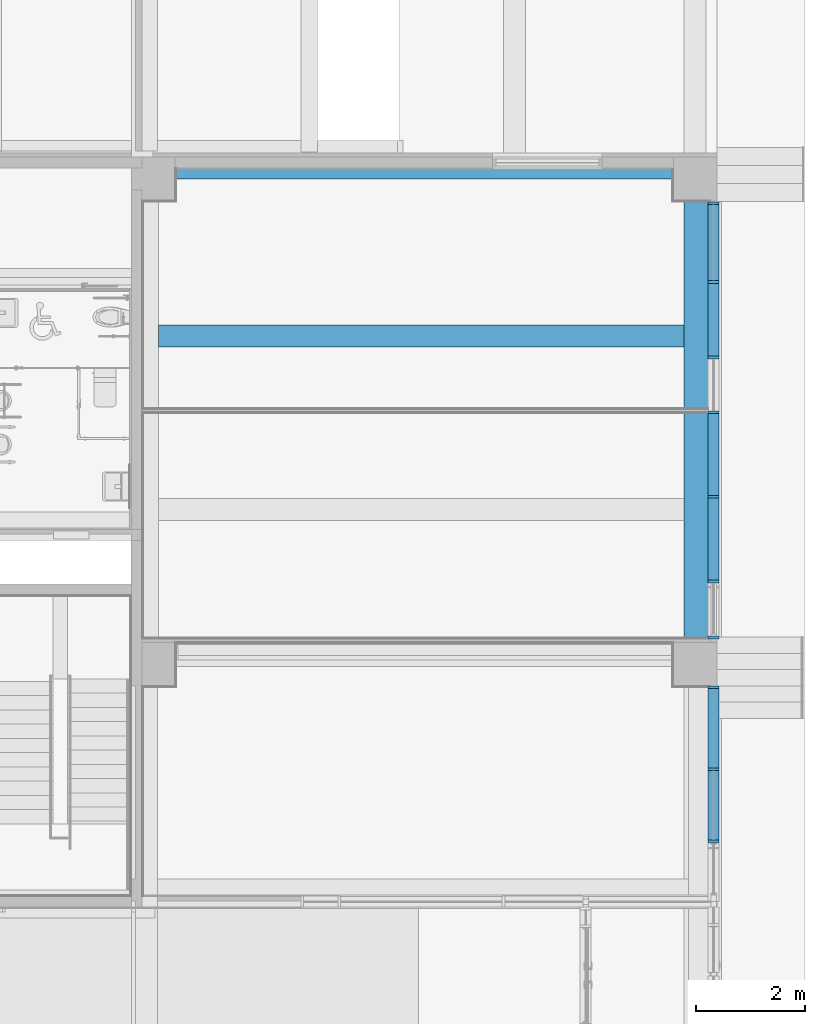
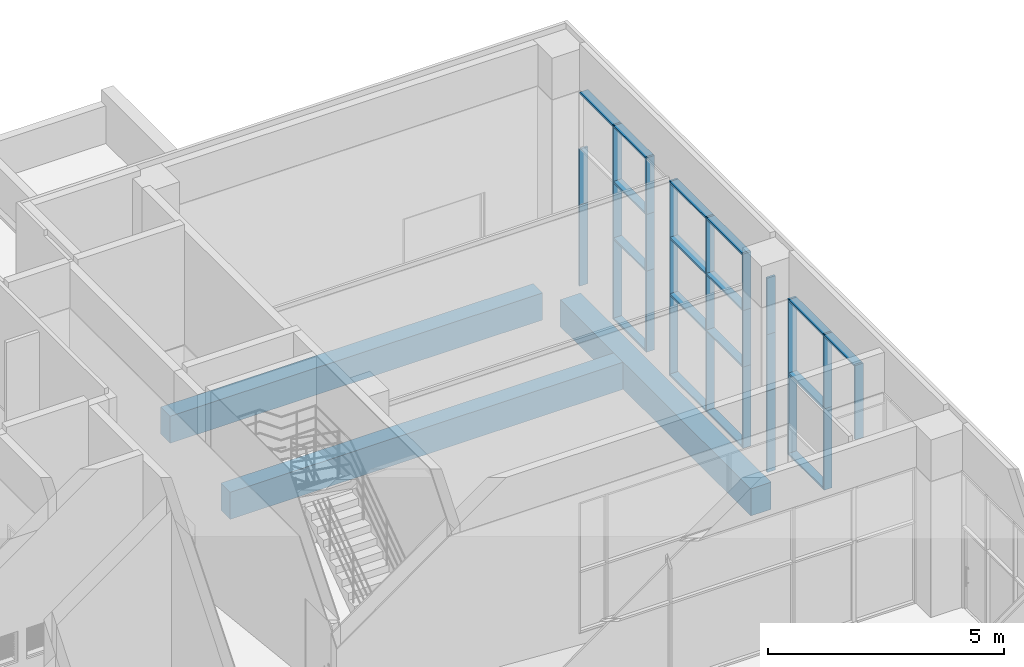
# One storey, part 14 of 100: 42 members, 3 beams, 2 elements without a shape of their own.
"""IFC2X3 building model written with IfcOpenShell, lengths in millimetres."""

from ifc_helpers import new_model, entity, si_unit, converted_unit, derived_unit, direction, frame, frame_2d, origin, origin_2d_with_axis, place, context, subcontext, project, spatial, rectangle, extrude, source, transform, mapped, material, type_object, type_shapes, element, aggregate, save


model = new_model("IFC2X3")

# Units and contexts
model_context = context("Model", 3, precision=0.01, world=origin(), true_north=direction((6.123031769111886e-17, 1.0)))
body_context = subcontext(model_context, "Body", "Model", "MODEL_VIEW")
ifc_project = project(units=[si_unit("LENGTHUNIT", "METRE", prefix="MILLI"), si_unit("AREAUNIT", "SQUARE_METRE"), si_unit("VOLUMEUNIT", "CUBIC_METRE"), converted_unit("PLANEANGLEUNIT", "DEGREE", entity("IfcRatioMeasure", 0.017453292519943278), si_unit("PLANEANGLEUNIT", "RADIAN"), dimensions=[0, 0, 0, 0, 0, 0, 0]), si_unit("MASSUNIT", "GRAM", prefix="KILO"), derived_unit("MASSDENSITYUNIT", [(si_unit("MASSUNIT", "GRAM", prefix="KILO"), 1), (si_unit("LENGTHUNIT", "METRE"), -3)]), derived_unit("MOMENTOFINERTIAUNIT", [(si_unit("LENGTHUNIT", "METRE"), 4)]), si_unit("TIMEUNIT", "SECOND"), si_unit("FREQUENCYUNIT", "HERTZ"), si_unit("THERMODYNAMICTEMPERATUREUNIT", "DEGREE_CELSIUS"), derived_unit("THERMALTRANSMITTANCEUNIT", [(si_unit("MASSUNIT", "GRAM", prefix="KILO"), 1), (si_unit("THERMODYNAMICTEMPERATUREUNIT", "KELVIN"), -1), (si_unit("TIMEUNIT", "SECOND"), -3)]), derived_unit("VOLUMETRICFLOWRATEUNIT", [(si_unit("LENGTHUNIT", "METRE"), 3), (si_unit("TIMEUNIT", "SECOND"), -1)]), derived_unit("MASSFLOWRATEUNIT", [(si_unit("MASSUNIT", "GRAM", prefix="KILO"), 1), (si_unit("TIMEUNIT", "SECOND"), -1)]), derived_unit("ROTATIONALFREQUENCYUNIT", [(si_unit("TIMEUNIT", "SECOND"), -1)]), si_unit("ELECTRICCURRENTUNIT", "AMPERE"), si_unit("ELECTRICVOLTAGEUNIT", "VOLT"), si_unit("POWERUNIT", "WATT"), si_unit("FORCEUNIT", "NEWTON", prefix="KILO"), si_unit("ILLUMINANCEUNIT", "LUX"), si_unit("LUMINOUSFLUXUNIT", "LUMEN"), si_unit("LUMINOUSINTENSITYUNIT", "CANDELA"), derived_unit("USERDEFINED", [(si_unit("MASSUNIT", "GRAM", prefix="KILO"), -1), (si_unit("LENGTHUNIT", "METRE"), -2), (si_unit("TIMEUNIT", "SECOND"), 3), (si_unit("LUMINOUSFLUXUNIT", "LUMEN"), 1)]), derived_unit("SOUNDPOWERUNIT", [(si_unit("MASSUNIT", "GRAM", prefix="KILO"), 1), (si_unit("LENGTHUNIT", "METRE"), 2), (si_unit("TIMEUNIT", "SECOND"), -3)]), derived_unit("SOUNDPRESSUREUNIT", [(si_unit("MASSUNIT", "GRAM", prefix="KILO"), 1), (si_unit("LENGTHUNIT", "METRE"), -1), (si_unit("TIMEUNIT", "SECOND"), -2)]), derived_unit("LINEARVELOCITYUNIT", [(si_unit("LENGTHUNIT", "METRE"), 1), (si_unit("TIMEUNIT", "SECOND"), -1)]), si_unit("PRESSUREUNIT", "PASCAL"), derived_unit("USERDEFINED", [(si_unit("LENGTHUNIT", "METRE"), -2), (si_unit("MASSUNIT", "GRAM", prefix="KILO"), 1), (si_unit("TIMEUNIT", "SECOND"), -2)]), derived_unit("LINEARFORCEUNIT", [(si_unit("MASSUNIT", "GRAM", prefix="KILO"), 1), (si_unit("LENGTHUNIT", "METRE"), 1), (si_unit("TIMEUNIT", "SECOND"), -2), (si_unit("LENGTHUNIT", "METRE"), -1)]), derived_unit("PLANARFORCEUNIT", [(si_unit("MASSUNIT", "GRAM", prefix="KILO"), 1), (si_unit("LENGTHUNIT", "METRE"), 1), (si_unit("TIMEUNIT", "SECOND"), -2), (si_unit("LENGTHUNIT", "METRE"), -2)])], contexts=[model_context])

# Site, building, storey
site_placement = place(None, frame((-14167.972527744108, -657.2125860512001, 0.0)))
site = spatial("IfcSite", under=ifc_project, at=site_placement, Name="Default", CompositionType="ELEMENT")
building_placement = place(site_placement, origin())
building = spatial("IfcBuilding", under=site, at=building_placement, Name="Sample Building", CompositionType="ELEMENT")
storey_placement = place(building_placement, origin())
storey = spatial("IfcBuildingStorey", under=building, at=storey_placement, Name="지상 1층", CompositionType="ELEMENT", Elevation=0.0)

# Curtain wall, member
curtain_wall_type = type_object("IfcCurtainWallType", Name="커튼월:CW112-스테인리스 스틸 커튼월", PredefinedType="NOTDEFINED")
curtain_wall_1_placement = place(storey_placement, origin())
curtain_wall_1 = element("IfcCurtainWall", 1, at=curtain_wall_1_placement, inside=storey, type_object=curtain_wall_type, Name="커튼월:CW112-스테인리스 스틸 커튼월", ObjectType="커튼월:CW112-스테인리스 스틸 커튼월")
ifc_material_1 = material(Name="<Unnamed>")
member_type_1 = type_object("IfcMemberType", Name="직사각형 멀리언:CW200-직사각형 멀리언 50x200mm", PredefinedType="MULLION", material=ifc_material_1)
shared_shape_1 = source(origin(), body_context, "Body", "SweptSolid", [
    extrude(rectangle(XDim=200.0, YDim=50.0, at=origin_2d_with_axis()), frame((0.0, 0.0, -2100.0), z_axis=(0.0, 0.0, 1.0), x_axis=(0.0, -1.0, 0.0)), (0.0, 0.0, 1.0), 2100.0),
])
type_shapes(member_type_1, [shared_shape_1])
member_1_placement = place(curtain_wall_1_placement, frame((51405.46382893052, 18077.17771234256, -420.0), z_axis=(0.0, 0.0, -1.0), x_axis=(0.0, 1.0, 0.0)))
member_1 = element("IfcMember", 2, at=member_1_placement, type_object=member_type_1, material=ifc_material_1, Name="직사각형 멀리언:CW200-직사각형 멀리언 50x200mm", ObjectType="직사각형 멀리언:CW200-직사각형 멀리언 50x200mm", context=body_context, shape_type="MappedRepresentation", body=[
    mapped(shared_shape_1, transform((0.0, 0.0, 0.0), scale=1.0)),
])

# Curtain wall, members
curtain_wall_2_placement = place(storey_placement, origin())
curtain_wall_2 = element("IfcCurtainWall", 3, at=curtain_wall_2_placement, inside=storey, type_object=curtain_wall_type, Name="커튼월:CW112-스테인리스 스틸 커튼월", ObjectType="커튼월:CW112-스테인리스 스틸 커튼월")
member_2_placement = place(curtain_wall_2_placement, frame((51405.481214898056, 21507.177712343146, -1420.0), z_axis=(0.0, 0.0, -1.0), x_axis=(0.0, 1.0, 0.0)))
member_2 = element("IfcMember", 4, at=member_2_placement, type_object=member_type_1, material=ifc_material_1, Name="직사각형 멀리언:CW200-직사각형 멀리언 50x200mm", ObjectType="직사각형 멀리언:CW200-직사각형 멀리언 50x200mm", context=body_context, shape_type="MappedRepresentation", body=[
    mapped(shared_shape_1, transform((0.0, 0.0, 0.0), scale=1.0)),
])
member_3_placement = place(curtain_wall_2_placement, frame((51405.481214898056, 23052.177712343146, -1420.0), z_axis=(0.0, 0.0, -1.0), x_axis=(0.0, 1.0, 0.0)))
member_3 = element("IfcMember", 5, at=member_3_placement, type_object=member_type_1, material=ifc_material_1, Name="직사각형 멀리언:CW200-직사각형 멀리언 50x200mm", ObjectType="직사각형 멀리언:CW200-직사각형 멀리언 50x200mm", context=body_context, shape_type="MappedRepresentation", body=[
    mapped(shared_shape_1, transform((0.0, 0.0, 0.0), scale=1.0)),
])
member_4_placement = place(curtain_wall_2_placement, frame((51405.48121489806, 24597.177712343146, -1420.0), z_axis=(0.0, 0.0, -1.0), x_axis=(0.0, 1.0, 0.0)))
member_4 = element("IfcMember", 6, at=member_4_placement, type_object=member_type_1, material=ifc_material_1, Name="직사각형 멀리언:CW200-직사각형 멀리언 50x200mm", ObjectType="직사각형 멀리언:CW200-직사각형 멀리언 50x200mm", context=body_context, shape_type="MappedRepresentation", body=[
    mapped(shared_shape_1, transform((0.0, 0.0, 0.0), scale=1.0)),
])
member_5_placement = place(curtain_wall_2_placement, frame((51405.48121489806, 25597.177712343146, -1420.0), z_axis=(0.0, 0.0, -1.0), x_axis=(0.0, 1.0, 0.0)))
member_5 = element("IfcMember", 7, at=member_5_placement, type_object=member_type_1, material=ifc_material_1, Name="직사각형 멀리언:CW200-직사각형 멀리언 50x200mm", ObjectType="직사각형 멀리언:CW200-직사각형 멀리언 50x200mm", context=body_context, shape_type="MappedRepresentation", body=[
    mapped(shared_shape_1, transform((0.0, 0.0, 0.0), scale=1.0)),
])
member_6_placement = place(curtain_wall_2_placement, frame((51405.48121489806, 26977.177712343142, -1420.0), z_axis=(0.0, 0.0, -1.0), x_axis=(0.0, 1.0, 0.0)))
member_6 = element("IfcMember", 8, at=member_6_placement, type_object=member_type_1, material=ifc_material_1, Name="직사각형 멀리언:CW200-직사각형 멀리언 50x200mm", ObjectType="직사각형 멀리언:CW200-직사각형 멀리언 50x200mm", context=body_context, shape_type="MappedRepresentation", body=[
    mapped(shared_shape_1, transform((0.0, 0.0, 0.0), scale=1.0)),
])

# Member
member_type_2 = type_object("IfcMemberType", Name="직사각형 멀리언:CW200-직사각형 멀리언 50x200mm", PredefinedType="MULLION", material=ifc_material_1)
shared_shape_2 = source(origin(), body_context, "Body", "SweptSolid", [
    extrude(rectangle(XDim=200.0, YDim=50.0, at=origin_2d_with_axis()), frame((-25.0, 0.0, -2100.0), z_axis=(0.0, 0.0, 1.0), x_axis=(0.0, -1.0, 0.0)), (0.0, 0.0, 1.0), 2100.0),
])
type_shapes(member_type_2, [shared_shape_2])
member_7_placement = place(curtain_wall_1_placement, frame((51405.46382893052, 19597.21238308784, -420.0), z_axis=(0.0, 0.0, -1.0), x_axis=(0.0, 1.0, 0.0)))
member_7 = element("IfcMember", 9, at=member_7_placement, type_object=member_type_2, material=ifc_material_1, Name="직사각형 멀리언:CW200-직사각형 멀리언 50x200mm", ObjectType="직사각형 멀리언:CW200-직사각형 멀리언 50x200mm", context=body_context, shape_type="MappedRepresentation", body=[
    mapped(shared_shape_2, transform((0.0, 0.0, 0.0), scale=1.0)),
])

member_8_placement = place(curtain_wall_2_placement, frame((51405.48121489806, 28439.212704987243, -1420.0), z_axis=(0.0, 0.0, -1.0), x_axis=(0.0, 1.0, 0.0)))
member_8 = element("IfcMember", 10, at=member_8_placement, type_object=member_type_2, material=ifc_material_1, Name="직사각형 멀리언:CW200-직사각형 멀리언 50x200mm", ObjectType="직사각형 멀리언:CW200-직사각형 멀리언 50x200mm", context=body_context, shape_type="MappedRepresentation", body=[
    mapped(shared_shape_2, transform((0.0, 0.0, 0.0), scale=1.0)),
])

member_type_3 = type_object("IfcMemberType", Name="직사각형 멀리언:CW200-직사각형 멀리언 50x200mm", PredefinedType="MULLION", material=ifc_material_1)
shared_shape_3 = source(origin(), body_context, "Body", "SweptSolid", [
    extrude(rectangle(XDim=200.0, YDim=50.0, at=origin_2d_with_axis()), frame((-25.0, 0.0, -2100.0), z_axis=(0.0, 0.0, 1.0), x_axis=(0.0, -1.0, 0.0)), (0.0, 0.0, 1.0), 2099.9999999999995),
])
type_shapes(member_type_3, [shared_shape_3])
member_9_placement = place(curtain_wall_2_placement, frame((51405.481214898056, 20457.212307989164, 680.0), z_axis=(0.0, 0.0, 1.0), x_axis=(0.0, -1.0, 0.0)))
member_9 = element("IfcMember", 11, at=member_9_placement, type_object=member_type_3, material=ifc_material_1, Name="직사각형 멀리언:CW200-직사각형 멀리언 50x200mm", ObjectType="직사각형 멀리언:CW200-직사각형 멀리언 50x200mm", context=body_context, shape_type="MappedRepresentation", body=[
    mapped(shared_shape_3, transform((0.0, 0.0, 0.0), scale=1.0)),
])

member_type_4 = type_object("IfcMemberType", Name="직사각형 멀리언:CW200-직사각형 멀리언 50x200mm", PredefinedType="MULLION", material=ifc_material_1)
shared_shape_4 = source(origin(), body_context, "Body", "SweptSolid", [
    extrude(rectangle(XDim=200.0, YDim=50.0, at=origin_2d_with_axis()), frame((-25.0, 0.0, -1445.0346707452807), z_axis=(0.0, 0.0, 1.0), x_axis=(0.0, -1.0, 0.0)), (0.0, 0.0, 1.0), 1445.0346707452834),
])
type_shapes(member_type_4, [shared_shape_4])
member_10_placement = place(curtain_wall_1_placement, frame((51405.46382893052, 19547.21238308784, 3600.0), z_axis=(0.0, 1.0, 0.0), x_axis=(0.0, 0.0, 1.0)))
member_10 = element("IfcMember", 12, at=member_10_placement, type_object=member_type_4, material=ifc_material_1, Name="직사각형 멀리언:CW200-직사각형 멀리언 50x200mm", ObjectType="직사각형 멀리언:CW200-직사각형 멀리언 50x200mm", context=body_context, shape_type="MappedRepresentation", body=[
    mapped(shared_shape_4, transform((0.0, 0.0, 0.0), scale=1.0)),
])

member_type_5 = type_object("IfcMemberType", Name="직사각형 멀리언:CW200-직사각형 멀리언 50x200mm", PredefinedType="MULLION", material=ifc_material_1)
shared_shape_5 = source(origin(), body_context, "Body", "SweptSolid", [
    extrude(rectangle(XDim=200.0, YDim=50.0, at=origin_2d_with_axis()), frame((-25.0, 0.0, -1920.0), z_axis=(0.0, 0.0, 1.0), x_axis=(0.0, -1.0, 0.0)), (0.0, 0.0, 1.0), 1920.000000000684),
])
type_shapes(member_type_5, [shared_shape_5])
member_11_placement = place(curtain_wall_1_placement, frame((51405.46382893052, 19597.21238308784, 1680.0), z_axis=(0.0, 0.0, -1.0), x_axis=(0.0, 1.0, 0.0)))
member_11 = element("IfcMember", 13, at=member_11_placement, type_object=member_type_5, material=ifc_material_1, Name="직사각형 멀리언:CW200-직사각형 멀리언 50x200mm", ObjectType="직사각형 멀리언:CW200-직사각형 멀리언 50x200mm", context=body_context, shape_type="MappedRepresentation", body=[
    mapped(shared_shape_5, transform((0.0, 0.0, 0.0), scale=1.0)),
])

member_type_6 = type_object("IfcMemberType", Name="직사각형 멀리언:CW200-직사각형 멀리언 50x200mm", PredefinedType="MULLION", material=ifc_material_1)
shared_shape_6 = source(origin(), body_context, "Body", "SweptSolid", [
    extrude(rectangle(XDim=200.0, YDim=50.0, at=origin_2d_with_axis()), frame((0.0, 0.0, -1920.0), z_axis=(0.0, 0.0, 1.0), x_axis=(0.0, -1.0, 0.0)), (0.0, 0.0, 1.0), 1920.0000000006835),
])
type_shapes(member_type_6, [shared_shape_6])
member_12_placement = place(curtain_wall_1_placement, frame((51405.46382893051, 16757.17771234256, 1680.0), z_axis=(0.0, 0.0, -1.0), x_axis=(0.0, 1.0, 0.0)))
member_12 = element("IfcMember", 14, at=member_12_placement, type_object=member_type_6, material=ifc_material_1, Name="직사각형 멀리언:CW200-직사각형 멀리언 50x200mm", ObjectType="직사각형 멀리언:CW200-직사각형 멀리언 50x200mm", context=body_context, shape_type="MappedRepresentation", body=[
    mapped(shared_shape_6, transform((0.0, 0.0, 0.0), scale=1.0)),
])

member_13_placement = place(curtain_wall_1_placement, frame((51405.46382893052, 18077.17771234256, 1680.0), z_axis=(0.0, 0.0, -1.0), x_axis=(0.0, 1.0, 0.0)))
member_13 = element("IfcMember", 15, at=member_13_placement, type_object=member_type_6, material=ifc_material_1, Name="직사각형 멀리언:CW200-직사각형 멀리언 50x200mm", ObjectType="직사각형 멀리언:CW200-직사각형 멀리언 50x200mm", context=body_context, shape_type="MappedRepresentation", body=[
    mapped(shared_shape_6, transform((0.0, 0.0, 0.0), scale=1.0)),
])

member_type_7 = type_object("IfcMemberType", Name="직사각형 멀리언:CW200-직사각형 멀리언 50x200mm", PredefinedType="MULLION", material=ifc_material_1)
shared_shape_7 = source(origin(), body_context, "Body", "SweptSolid", [
    extrude(rectangle(XDim=200.0, YDim=50.0, at=origin_2d_with_axis()), frame((-25.0, 0.0, -1270.0), z_axis=(0.0, 0.0, 1.0), x_axis=(0.0, -1.0, 0.0)), (0.0, 0.0, 1.0), 1269.9999999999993),
])
type_shapes(member_type_7, [shared_shape_7])
member_14_placement = place(curtain_wall_1_placement, frame((51405.46382893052, 18052.177712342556, 3600.0), z_axis=(0.0, 1.0, 0.0), x_axis=(0.0, 0.0, 1.0)))
member_14 = element("IfcMember", 16, at=member_14_placement, type_object=member_type_7, material=ifc_material_1, Name="직사각형 멀리언:CW200-직사각형 멀리언 50x200mm", ObjectType="직사각형 멀리언:CW200-직사각형 멀리언 50x200mm", context=body_context, shape_type="MappedRepresentation", body=[
    mapped(shared_shape_7, transform((0.0, 0.0, 0.0), scale=1.0)),
])

member_type_8 = type_object("IfcMemberType", Name="직사각형 멀리언:CW200-직사각형 멀리언 50x200mm", PredefinedType="MULLION", material=ifc_material_1)
shared_shape_8 = source(origin(), body_context, "Body", "SweptSolid", [
    extrude(rectangle(XDim=200.0, YDim=50.0, at=origin_2d_with_axis()), frame((-25.0, 0.0, -1445.034670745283), z_axis=(0.0, 0.0, 1.0), x_axis=(0.0, -1.0, 0.0)), (0.0, 0.0, 1.0), 1445.0346707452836),
])
type_shapes(member_type_8, [shared_shape_8])
member_15_placement = place(curtain_wall_1_placement, frame((51405.46382893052, 18102.17771234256, -420.0), z_axis=(0.0, -1.0, 0.0), x_axis=(0.0, 0.0, -1.0)))
member_15 = element("IfcMember", 17, at=member_15_placement, type_object=member_type_8, material=ifc_material_1, Name="직사각형 멀리언:CW200-직사각형 멀리언 50x200mm", ObjectType="직사각형 멀리언:CW200-직사각형 멀리언 50x200mm", context=body_context, shape_type="MappedRepresentation", body=[
    mapped(shared_shape_8, transform((0.0, 0.0, 0.0), scale=1.0)),
])

member_type_9 = type_object("IfcMemberType", Name="직사각형 멀리언:CW200-직사각형 멀리언 50x200mm", PredefinedType="MULLION", material=ifc_material_1)
shared_shape_9 = source(origin(), body_context, "Body", "SweptSolid", [
    extrude(rectangle(XDim=200.0, YDim=50.0, at=origin_2d_with_axis()), frame((0.0, 0.0, -1445.034670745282), z_axis=(0.0, 0.0, 1.0), x_axis=(0.0, -1.0, 0.0)), (0.0, 0.0, 1.0), 1445.0346707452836),
])
type_shapes(member_type_9, [shared_shape_9])
member_16_placement = place(curtain_wall_1_placement, frame((51405.46382893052, 19547.21238308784, 1680.0), z_axis=(0.0, 1.0, 0.0), x_axis=(0.0, 0.0, 1.0)))
member_16 = element("IfcMember", 18, at=member_16_placement, type_object=member_type_9, material=ifc_material_1, Name="직사각형 멀리언:CW200-직사각형 멀리언 50x200mm", ObjectType="직사각형 멀리언:CW200-직사각형 멀리언 50x200mm", context=body_context, shape_type="MappedRepresentation", body=[
    mapped(shared_shape_9, transform((0.0, 0.0, 0.0), scale=1.0)),
])

aggregate(curtain_wall_1, [member_10, member_7, member_11, member_12, member_14, member_15, member_16, member_1, member_13])

member_type_10 = type_object("IfcMemberType", Name="직사각형 멀리언:CW200-직사각형 멀리언 50x200mm", PredefinedType="MULLION", material=ifc_material_1)
shared_shape_10 = source(origin(), body_context, "Body", "SweptSolid", [
    extrude(rectangle(XDim=200.0, YDim=50.0, at=origin_2d_with_axis()), frame((-25.0, 0.0, -1387.0349926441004), z_axis=(0.0, 0.0, 1.0), x_axis=(0.0, -1.0, 0.0)), (0.0, 0.0, 1.0), 1387.034992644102),
])
type_shapes(member_type_10, [shared_shape_10])
member_17_placement = place(curtain_wall_2_placement, frame((51405.48121489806, 28389.212704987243, 3600.0), z_axis=(0.0, 1.0, 0.0), x_axis=(0.0, 0.0, 1.0)))
member_17 = element("IfcMember", 19, at=member_17_placement, type_object=member_type_10, material=ifc_material_1, Name="직사각형 멀리언:CW200-직사각형 멀리언 50x200mm", ObjectType="직사각형 멀리언:CW200-직사각형 멀리언 50x200mm", context=body_context, shape_type="MappedRepresentation", body=[
    mapped(shared_shape_10, transform((0.0, 0.0, 0.0), scale=1.0)),
])

member_type_11 = type_object("IfcMemberType", Name="직사각형 멀리언:CW200-직사각형 멀리언 50x200mm", PredefinedType="MULLION", material=ifc_material_1)
shared_shape_11 = source(origin(), body_context, "Body", "SweptSolid", [
    extrude(rectangle(XDim=200.0, YDim=50.0, at=origin_2d_with_axis()), frame((-25.0, 0.0, -1460.0), z_axis=(0.0, 0.0, 1.0), x_axis=(0.0, -1.0, 0.0)), (0.0, 0.0, 1.0), 1460.0000000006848),
])
type_shapes(member_type_11, [shared_shape_11])
member_18_placement = place(curtain_wall_2_placement, frame((51405.481214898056, 20457.212307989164, 3600.0), z_axis=(0.0, 0.0, 1.0), x_axis=(0.0, -1.0, 0.0)))
member_18 = element("IfcMember", 20, at=member_18_placement, type_object=member_type_11, material=ifc_material_1, Name="직사각형 멀리언:CW200-직사각형 멀리언 50x200mm", ObjectType="직사각형 멀리언:CW200-직사각형 멀리언 50x200mm", context=body_context, shape_type="MappedRepresentation", body=[
    mapped(shared_shape_11, transform((0.0, 0.0, 0.0), scale=1.0)),
])

member_type_12 = type_object("IfcMemberType", Name="직사각형 멀리언:CW200-직사각형 멀리언 50x200mm", PredefinedType="MULLION", material=ifc_material_1)
shared_shape_12 = source(origin(), body_context, "Body", "SweptSolid", [
    extrude(rectangle(XDim=200.0, YDim=50.0, at=origin_2d_with_axis()), frame((-25.0, 0.0, -1435.0), z_axis=(0.0, 0.0, 1.0), x_axis=(0.0, -1.0, 0.0)), (0.0, 0.0, 1.0), 1435.0000000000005),
])
type_shapes(member_type_12, [shared_shape_12])
member_19_placement = place(curtain_wall_2_placement, frame((51405.48121489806, 28439.212704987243, 680.0), z_axis=(0.0, 0.0, -1.0), x_axis=(0.0, 1.0, 0.0)))
member_19 = element("IfcMember", 21, at=member_19_placement, type_object=member_type_12, material=ifc_material_1, Name="직사각형 멀리언:CW200-직사각형 멀리언 50x200mm", ObjectType="직사각형 멀리언:CW200-직사각형 멀리언 50x200mm", context=body_context, shape_type="MappedRepresentation", body=[
    mapped(shared_shape_12, transform((0.0, 0.0, 0.0), scale=1.0)),
])

member_type_13 = type_object("IfcMemberType", Name="직사각형 멀리언:CW200-직사각형 멀리언 50x200mm", PredefinedType="MULLION", material=ifc_material_1)
shared_shape_13 = source(origin(), body_context, "Body", "SweptSolid", [
    extrude(rectangle(XDim=200.0, YDim=50.0, at=origin_2d_with_axis()), frame((-25.0, 0.0, -1460.0), z_axis=(0.0, 0.0, 1.0), x_axis=(0.0, -1.0, 0.0)), (0.0, 0.0, 1.0), 1459.9999999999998),
])
type_shapes(member_type_13, [shared_shape_13])
member_20_placement = place(curtain_wall_2_placement, frame((51405.481214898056, 20457.212307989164, 2140.0), z_axis=(0.0, 0.0, 1.0), x_axis=(0.0, -1.0, 0.0)))
member_20 = element("IfcMember", 22, at=member_20_placement, type_object=member_type_13, material=ifc_material_1, Name="직사각형 멀리언:CW200-직사각형 멀리언 50x200mm", ObjectType="직사각형 멀리언:CW200-직사각형 멀리언 50x200mm", context=body_context, shape_type="MappedRepresentation", body=[
    mapped(shared_shape_13, transform((0.0, 0.0, 0.0), scale=1.0)),
])

member_type_14 = type_object("IfcMemberType", Name="직사각형 멀리언:CW200-직사각형 멀리언 50x200mm", PredefinedType="MULLION", material=ifc_material_1)
shared_shape_14 = source(origin(), body_context, "Body", "SweptSolid", [
    extrude(rectangle(XDim=200.0, YDim=50.0, at=origin_2d_with_axis()), frame((-25.0, 0.0, -1495.0), z_axis=(0.0, 0.0, 1.0), x_axis=(0.0, -1.0, 0.0)), (0.0, 0.0, 1.0), 1494.9999999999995),
])
type_shapes(member_type_14, [shared_shape_14])
member_21_placement = place(curtain_wall_2_placement, frame((51405.481214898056, 21532.177712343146, -1420.0), z_axis=(0.0, -1.0, 0.0), x_axis=(0.0, 0.0, -1.0)))
member_21 = element("IfcMember", 23, at=member_21_placement, type_object=member_type_14, material=ifc_material_1, Name="직사각형 멀리언:CW200-직사각형 멀리언 50x200mm", ObjectType="직사각형 멀리언:CW200-직사각형 멀리언 50x200mm", context=body_context, shape_type="MappedRepresentation", body=[
    mapped(shared_shape_14, transform((0.0, 0.0, 0.0), scale=1.0)),
])

member_22_placement = place(curtain_wall_2_placement, frame((51405.481214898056, 23077.177712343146, -1420.0), z_axis=(0.0, -1.0, 0.0), x_axis=(0.0, 0.0, -1.0)))
member_22 = element("IfcMember", 24, at=member_22_placement, type_object=member_type_14, material=ifc_material_1, Name="직사각형 멀리언:CW200-직사각형 멀리언 50x200mm", ObjectType="직사각형 멀리언:CW200-직사각형 멀리언 50x200mm", context=body_context, shape_type="MappedRepresentation", body=[
    mapped(shared_shape_14, transform((0.0, 0.0, 0.0), scale=1.0)),
])

member_type_15 = type_object("IfcMemberType", Name="직사각형 멀리언:CW200-직사각형 멀리언 50x200mm", PredefinedType="MULLION", material=ifc_material_1)
shared_shape_15 = source(origin(), body_context, "Body", "SweptSolid", [
    extrude(rectangle(XDim=200.0, YDim=50.0, at=origin_2d_with_axis()), frame((0.0, 0.0, -1495.0), z_axis=(0.0, 0.0, 1.0), x_axis=(0.0, -1.0, 0.0)), (0.0, 0.0, 1.0), 1494.9999999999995),
])
type_shapes(member_type_15, [shared_shape_15])
member_23_placement = place(curtain_wall_2_placement, frame((51405.481214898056, 23027.17771234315, 680.0), z_axis=(0.0, 1.0, 0.0), x_axis=(0.0, 0.0, 1.0)))
member_23 = element("IfcMember", 25, at=member_23_placement, type_object=member_type_15, material=ifc_material_1, Name="직사각형 멀리언:CW200-직사각형 멀리언 50x200mm", ObjectType="직사각형 멀리언:CW200-직사각형 멀리언 50x200mm", context=body_context, shape_type="MappedRepresentation", body=[
    mapped(shared_shape_15, transform((0.0, 0.0, 0.0), scale=1.0)),
])

member_24_placement = place(curtain_wall_2_placement, frame((51405.481214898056, 23027.17771234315, 2140.0), z_axis=(0.0, 1.0, 0.0), x_axis=(0.0, 0.0, 1.0)))
member_24 = element("IfcMember", 26, at=member_24_placement, type_object=member_type_15, material=ifc_material_1, Name="직사각형 멀리언:CW200-직사각형 멀리언 50x200mm", ObjectType="직사각형 멀리언:CW200-직사각형 멀리언 50x200mm", context=body_context, shape_type="MappedRepresentation", body=[
    mapped(shared_shape_15, transform((0.0, 0.0, 0.0), scale=1.0)),
])

member_25_placement = place(curtain_wall_2_placement, frame((51405.48121489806, 24572.17771234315, 680.0), z_axis=(0.0, 1.0, 0.0), x_axis=(0.0, 0.0, 1.0)))
member_25 = element("IfcMember", 27, at=member_25_placement, type_object=member_type_15, material=ifc_material_1, Name="직사각형 멀리언:CW200-직사각형 멀리언 50x200mm", ObjectType="직사각형 멀리언:CW200-직사각형 멀리언 50x200mm", context=body_context, shape_type="MappedRepresentation", body=[
    mapped(shared_shape_15, transform((0.0, 0.0, 0.0), scale=1.0)),
])

member_26_placement = place(curtain_wall_2_placement, frame((51405.48121489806, 24572.17771234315, 2140.0), z_axis=(0.0, 1.0, 0.0), x_axis=(0.0, 0.0, 1.0)))
member_26 = element("IfcMember", 28, at=member_26_placement, type_object=member_type_15, material=ifc_material_1, Name="직사각형 멀리언:CW200-직사각형 멀리언 50x200mm", ObjectType="직사각형 멀리언:CW200-직사각형 멀리언 50x200mm", context=body_context, shape_type="MappedRepresentation", body=[
    mapped(shared_shape_15, transform((0.0, 0.0, 0.0), scale=1.0)),
])

member_type_16 = type_object("IfcMemberType", Name="직사각형 멀리언:CW200-직사각형 멀리언 50x200mm", PredefinedType="MULLION", material=ifc_material_1)
shared_shape_16 = source(origin(), body_context, "Body", "SweptSolid", [
    extrude(rectangle(XDim=200.0, YDim=50.0, at=origin_2d_with_axis()), frame((0.0, 0.0, -1460.0), z_axis=(0.0, 0.0, 1.0), x_axis=(0.0, -1.0, 0.0)), (0.0, 0.0, 1.0), 1460.0000000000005),
])
type_shapes(member_type_16, [shared_shape_16])
member_27_placement = place(curtain_wall_2_placement, frame((51405.481214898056, 21507.177712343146, 680.0), z_axis=(0.0, 0.0, -1.0), x_axis=(0.0, 1.0, 0.0)))
member_27 = element("IfcMember", 29, at=member_27_placement, type_object=member_type_16, material=ifc_material_1, Name="직사각형 멀리언:CW200-직사각형 멀리언 50x200mm", ObjectType="직사각형 멀리언:CW200-직사각형 멀리언 50x200mm", context=body_context, shape_type="MappedRepresentation", body=[
    mapped(shared_shape_16, transform((0.0, 0.0, 0.0), scale=1.0)),
])

member_28_placement = place(curtain_wall_2_placement, frame((51405.481214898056, 23052.177712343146, 680.0), z_axis=(0.0, 0.0, -1.0), x_axis=(0.0, 1.0, 0.0)))
member_28 = element("IfcMember", 30, at=member_28_placement, type_object=member_type_16, material=ifc_material_1, Name="직사각형 멀리언:CW200-직사각형 멀리언 50x200mm", ObjectType="직사각형 멀리언:CW200-직사각형 멀리언 50x200mm", context=body_context, shape_type="MappedRepresentation", body=[
    mapped(shared_shape_16, transform((0.0, 0.0, 0.0), scale=1.0)),
])

member_29_placement = place(curtain_wall_2_placement, frame((51405.48121489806, 24597.177712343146, 680.0), z_axis=(0.0, 0.0, -1.0), x_axis=(0.0, 1.0, 0.0)))
member_29 = element("IfcMember", 31, at=member_29_placement, type_object=member_type_16, material=ifc_material_1, Name="직사각형 멀리언:CW200-직사각형 멀리언 50x200mm", ObjectType="직사각형 멀리언:CW200-직사각형 멀리언 50x200mm", context=body_context, shape_type="MappedRepresentation", body=[
    mapped(shared_shape_16, transform((0.0, 0.0, 0.0), scale=1.0)),
])

member_30_placement = place(curtain_wall_2_placement, frame((51405.48121489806, 25597.177712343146, 680.0), z_axis=(0.0, 0.0, -1.0), x_axis=(0.0, 1.0, 0.0)))
member_30 = element("IfcMember", 32, at=member_30_placement, type_object=member_type_16, material=ifc_material_1, Name="직사각형 멀리언:CW200-직사각형 멀리언 50x200mm", ObjectType="직사각형 멀리언:CW200-직사각형 멀리언 50x200mm", context=body_context, shape_type="MappedRepresentation", body=[
    mapped(shared_shape_16, transform((0.0, 0.0, 0.0), scale=1.0)),
])

member_31_placement = place(curtain_wall_2_placement, frame((51405.48121489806, 26977.177712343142, 680.0), z_axis=(0.0, 0.0, -1.0), x_axis=(0.0, 1.0, 0.0)))
member_31 = element("IfcMember", 33, at=member_31_placement, type_object=member_type_16, material=ifc_material_1, Name="직사각형 멀리언:CW200-직사각형 멀리언 50x200mm", ObjectType="직사각형 멀리언:CW200-직사각형 멀리언 50x200mm", context=body_context, shape_type="MappedRepresentation", body=[
    mapped(shared_shape_16, transform((0.0, 0.0, 0.0), scale=1.0)),
])

member_type_17 = type_object("IfcMemberType", Name="직사각형 멀리언:CW200-직사각형 멀리언 50x200mm", PredefinedType="MULLION", material=ifc_material_1)
shared_shape_17 = source(origin(), body_context, "Body", "SweptSolid", [
    extrude(rectangle(XDim=200.0, YDim=50.0, at=origin_2d_with_axis()), frame((0.0, 0.0, -1460.0), z_axis=(0.0, 0.0, 1.0), x_axis=(0.0, -1.0, 0.0)), (0.0, 0.0, 1.0), 1460.0000000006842),
])
type_shapes(member_type_17, [shared_shape_17])
member_32_placement = place(curtain_wall_2_placement, frame((51405.481214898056, 21507.177712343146, 2140.0), z_axis=(0.0, 0.0, -1.0), x_axis=(0.0, 1.0, 0.0)))
member_32 = element("IfcMember", 34, at=member_32_placement, type_object=member_type_17, material=ifc_material_1, Name="직사각형 멀리언:CW200-직사각형 멀리언 50x200mm", ObjectType="직사각형 멀리언:CW200-직사각형 멀리언 50x200mm", context=body_context, shape_type="MappedRepresentation", body=[
    mapped(shared_shape_17, transform((0.0, 0.0, 0.0), scale=1.0)),
])

member_33_placement = place(curtain_wall_2_placement, frame((51405.481214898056, 23052.177712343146, 2140.0), z_axis=(0.0, 0.0, -1.0), x_axis=(0.0, 1.0, 0.0)))
member_33 = element("IfcMember", 35, at=member_33_placement, type_object=member_type_17, material=ifc_material_1, Name="직사각형 멀리언:CW200-직사각형 멀리언 50x200mm", ObjectType="직사각형 멀리언:CW200-직사각형 멀리언 50x200mm", context=body_context, shape_type="MappedRepresentation", body=[
    mapped(shared_shape_17, transform((0.0, 0.0, 0.0), scale=1.0)),
])

member_34_placement = place(curtain_wall_2_placement, frame((51405.48121489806, 24597.177712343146, 2140.0), z_axis=(0.0, 0.0, -1.0), x_axis=(0.0, 1.0, 0.0)))
member_34 = element("IfcMember", 36, at=member_34_placement, type_object=member_type_17, material=ifc_material_1, Name="직사각형 멀리언:CW200-직사각형 멀리언 50x200mm", ObjectType="직사각형 멀리언:CW200-직사각형 멀리언 50x200mm", context=body_context, shape_type="MappedRepresentation", body=[
    mapped(shared_shape_17, transform((0.0, 0.0, 0.0), scale=1.0)),
])

member_35_placement = place(curtain_wall_2_placement, frame((51405.48121489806, 25597.177712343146, 2140.0), z_axis=(0.0, 0.0, -1.0), x_axis=(0.0, 1.0, 0.0)))
member_35 = element("IfcMember", 37, at=member_35_placement, type_object=member_type_17, material=ifc_material_1, Name="직사각형 멀리언:CW200-직사각형 멀리언 50x200mm", ObjectType="직사각형 멀리언:CW200-직사각형 멀리언 50x200mm", context=body_context, shape_type="MappedRepresentation", body=[
    mapped(shared_shape_17, transform((0.0, 0.0, 0.0), scale=1.0)),
])

member_36_placement = place(curtain_wall_2_placement, frame((51405.48121489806, 26977.177712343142, 2140.0), z_axis=(0.0, 0.0, -1.0), x_axis=(0.0, 1.0, 0.0)))
member_36 = element("IfcMember", 38, at=member_36_placement, type_object=member_type_17, material=ifc_material_1, Name="직사각형 멀리언:CW200-직사각형 멀리언 50x200mm", ObjectType="직사각형 멀리언:CW200-직사각형 멀리언 50x200mm", context=body_context, shape_type="MappedRepresentation", body=[
    mapped(shared_shape_17, transform((0.0, 0.0, 0.0), scale=1.0)),
])

member_type_18 = type_object("IfcMemberType", Name="직사각형 멀리언:CW200-직사각형 멀리언 50x200mm", PredefinedType="MULLION", material=ifc_material_1)
shared_shape_18 = source(origin(), body_context, "Body", "SweptSolid", [
    extrude(rectangle(XDim=200.0, YDim=50.0, at=origin_2d_with_axis()), frame((-25.0, 0.0, -1495.0), z_axis=(0.0, 0.0, 1.0), x_axis=(0.0, -1.0, 0.0)), (0.0, 0.0, 1.0), 1495.0000000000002),
])
type_shapes(member_type_18, [shared_shape_18])
member_37_placement = place(curtain_wall_2_placement, frame((51405.481214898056, 23027.17771234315, 3600.0), z_axis=(0.0, 1.0, 0.0), x_axis=(0.0, 0.0, 1.0)))
member_37 = element("IfcMember", 39, at=member_37_placement, type_object=member_type_18, material=ifc_material_1, Name="직사각형 멀리언:CW200-직사각형 멀리언 50x200mm", ObjectType="직사각형 멀리언:CW200-직사각형 멀리언 50x200mm", context=body_context, shape_type="MappedRepresentation", body=[
    mapped(shared_shape_18, transform((0.0, 0.0, 0.0), scale=1.0)),
])

member_38_placement = place(curtain_wall_2_placement, frame((51405.48121489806, 24572.17771234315, 3600.0), z_axis=(0.0, 1.0, 0.0), x_axis=(0.0, 0.0, 1.0)))
member_38 = element("IfcMember", 40, at=member_38_placement, type_object=member_type_18, material=ifc_material_1, Name="직사각형 멀리언:CW200-직사각형 멀리언 50x200mm", ObjectType="직사각형 멀리언:CW200-직사각형 멀리언 50x200mm", context=body_context, shape_type="MappedRepresentation", body=[
    mapped(shared_shape_18, transform((0.0, 0.0, 0.0), scale=1.0)),
])

member_type_19 = type_object("IfcMemberType", Name="직사각형 멀리언:CW200-직사각형 멀리언 50x200mm", PredefinedType="MULLION", material=ifc_material_1)
shared_shape_19 = source(origin(), body_context, "Body", "SweptSolid", [
    extrude(rectangle(XDim=200.0, YDim=50.0, at=origin_2d_with_axis()), frame((-25.0, 0.0, -1330.0), z_axis=(0.0, 0.0, 1.0), x_axis=(0.0, -1.0, 0.0)), (0.0, 0.0, 1.0), 1329.9999999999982),
])
type_shapes(member_type_19, [shared_shape_19])
member_39_placement = place(curtain_wall_2_placement, frame((51405.48121489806, 25622.177712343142, -1420.0), z_axis=(0.0, -1.0, 0.0), x_axis=(0.0, 0.0, -1.0)))
member_39 = element("IfcMember", 41, at=member_39_placement, type_object=member_type_19, material=ifc_material_1, Name="직사각형 멀리언:CW200-직사각형 멀리언 50x200mm", ObjectType="직사각형 멀리언:CW200-직사각형 멀리언 50x200mm", context=body_context, shape_type="MappedRepresentation", body=[
    mapped(shared_shape_19, transform((0.0, 0.0, 0.0), scale=1.0)),
])

member_type_20 = type_object("IfcMemberType", Name="직사각형 멀리언:CW200-직사각형 멀리언 50x200mm", PredefinedType="MULLION", material=ifc_material_1)
shared_shape_20 = source(origin(), body_context, "Body", "SweptSolid", [
    extrude(rectangle(XDim=200.0, YDim=50.0, at=origin_2d_with_axis()), frame((0.0, 0.0, -1330.0), z_axis=(0.0, 0.0, 1.0), x_axis=(0.0, -1.0, 0.0)), (0.0, 0.0, 1.0), 1329.9999999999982),
])
type_shapes(member_type_20, [shared_shape_20])
member_40_placement = place(curtain_wall_2_placement, frame((51405.48121489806, 26952.177712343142, 680.0), z_axis=(0.0, 1.0, 0.0), x_axis=(0.0, 0.0, 1.0)))
member_40 = element("IfcMember", 42, at=member_40_placement, type_object=member_type_20, material=ifc_material_1, Name="직사각형 멀리언:CW200-직사각형 멀리언 50x200mm", ObjectType="직사각형 멀리언:CW200-직사각형 멀리언 50x200mm", context=body_context, shape_type="MappedRepresentation", body=[
    mapped(shared_shape_20, transform((0.0, 0.0, 0.0), scale=1.0)),
])

member_41_placement = place(curtain_wall_2_placement, frame((51405.48121489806, 26952.177712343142, 2140.0), z_axis=(0.0, 1.0, 0.0), x_axis=(0.0, 0.0, 1.0)))
member_41 = element("IfcMember", 43, at=member_41_placement, type_object=member_type_20, material=ifc_material_1, Name="직사각형 멀리언:CW200-직사각형 멀리언 50x200mm", ObjectType="직사각형 멀리언:CW200-직사각형 멀리언 50x200mm", context=body_context, shape_type="MappedRepresentation", body=[
    mapped(shared_shape_20, transform((0.0, 0.0, 0.0), scale=1.0)),
])

member_type_21 = type_object("IfcMemberType", Name="직사각형 멀리언:CW200-직사각형 멀리언 50x200mm", PredefinedType="MULLION", material=ifc_material_1)
shared_shape_21 = source(origin(), body_context, "Body", "SweptSolid", [
    extrude(rectangle(XDim=200.0, YDim=50.0, at=origin_2d_with_axis()), frame((-25.0, 0.0, -1330.0), z_axis=(0.0, 0.0, 1.0), x_axis=(0.0, -1.0, 0.0)), (0.0, 0.0, 1.0), 1329.9999999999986),
])
type_shapes(member_type_21, [shared_shape_21])
member_42_placement = place(curtain_wall_2_placement, frame((51405.48121489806, 26952.177712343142, 3600.0), z_axis=(0.0, 1.0, 0.0), x_axis=(0.0, 0.0, 1.0)))
member_42 = element("IfcMember", 44, at=member_42_placement, type_object=member_type_21, material=ifc_material_1, Name="직사각형 멀리언:CW200-직사각형 멀리언 50x200mm", ObjectType="직사각형 멀리언:CW200-직사각형 멀리언 50x200mm", context=body_context, shape_type="MappedRepresentation", body=[
    mapped(shared_shape_21, transform((0.0, 0.0, 0.0), scale=1.0)),
])

aggregate(curtain_wall_2, [member_17, member_8, member_18, member_19, member_9, member_20, member_21, member_23, member_24, member_2, member_27, member_32, member_37, member_22, member_25, member_26, member_3, member_28, member_33, member_38, member_4, member_29, member_34, member_39, member_40, member_41, member_5, member_30, member_35, member_42, member_6, member_31, member_36])

# Beams
ifc_material_2 = material(Name="KBIMS-콘크리트")
beam_type_1 = type_object("IfcBeamType", Name="BM111-철근콘크리트구조 보:BM110-철근 콘크리트구조 보_400 x 850_B1-1G1", PredefinedType="NOTDEFINED")
beam_1_placement = place(storey_placement, frame((41117.96296519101, 29057.212617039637, 0.0)))
element("IfcBeam", 45, at=beam_1_placement, inside=storey, type_object=beam_type_1, material=ifc_material_2, Name="BM111-철근콘크리트구조 보:BM110-철근 콘크리트구조 보_400 x 850_B1-1G1", ObjectType="BM111-철근콘크리트구조 보:BM110-철근 콘크리트구조 보_400 x 850_B1-1G1", context=body_context, shape_type="SweptSolid", body=[
    extrude(rectangle(XDim=700.0000000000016, YDim=400.00000000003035, at=frame_2d((2.5579538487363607e-13, -1.7323031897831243e-11), x_axis=(1.0, 0.0))), frame((449.9921765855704, 0.0, -2000.0), z_axis=(1.0, 0.0, 0.0), x_axis=(0.0, 0.0, -1.0)), (0.0, 0.0, 1.0), 9100.008723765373),
])
beam_type_2 = type_object("IfcBeamType", Name="BM111-철근콘크리트구조 보:BM110-철근 콘크리트구조 보_500 x 850_B1-1G5", PredefinedType="NOTDEFINED")
beam_2_placement = place(storey_placement, frame((51117.95547132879, 28457.212620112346, 0.0), z_axis=(0.0, 0.0, 1.0), x_axis=(0.0, -1.0, 0.0)))
element("IfcBeam", 46, at=beam_2_placement, inside=storey, type_object=beam_type_2, material=ifc_material_2, Name="BM111-철근콘크리트구조 보:BM110-철근 콘크리트구조 보_500 x 850_B1-1G5", ObjectType="BM111-철근콘크리트구조 보:BM110-철근 콘크리트구조 보_500 x 850_B1-1G5", context=body_context, shape_type="SweptSolid", body=[
    extrude(rectangle(XDim=700.0000000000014, YDim=500.00000000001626, at=frame_2d((1.4210854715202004e-13, -1.3002932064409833e-11), x_axis=(1.0, 0.0))), frame((0.0, 0.0, -2000.0), z_axis=(1.0, 0.0, 0.0), x_axis=(0.0, 0.0, -1.0)), (0.0, 0.0, 1.0), 8062.517728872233),
])
beam_type_3 = type_object("IfcBeamType", Name="BM111-철근콘크리트구조 보:BM110-철근 콘크리트구조 보_400 x 850_B1-1B1", PredefinedType="BEAM", material=ifc_material_2)
beam_3_placement = place(storey_placement, frame((41017.946448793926, 25990.54595037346, 0.0)))
element("IfcBeam", 47, at=beam_3_placement, inside=storey, type_object=beam_type_3, material=ifc_material_2, Name="BM111-철근콘크리트구조 보:BM110-철근 콘크리트구조 보_400 x 850_B1-1B1", ObjectType="BM111-철근콘크리트구조 보:BM110-철근 콘크리트구조 보_400 x 850_B1-1B1", context=body_context, shape_type="SweptSolid", body=[
    extrude(rectangle(XDim=700.0000000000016, YDim=400.00000000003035, at=frame_2d((2.5579538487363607e-13, -1.7323031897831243e-11), x_axis=(1.0, 0.0))), frame((250.0, 0.0, -2000.0), z_axis=(1.0, 0.0, 0.0), x_axis=(0.0, 0.0, -1.0)), (0.0, 0.0, 1.0), 9600.00902253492),
])

save(model, "model.ifc")
